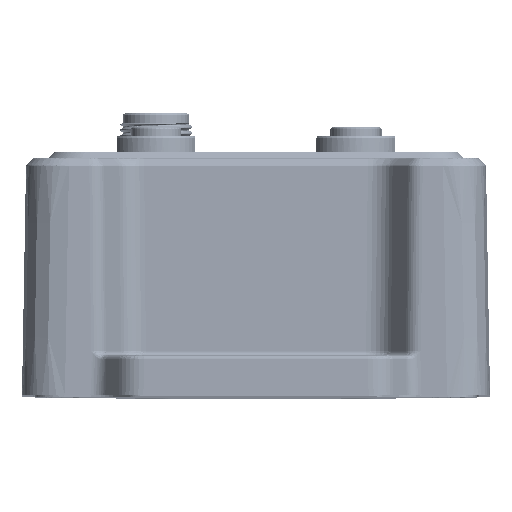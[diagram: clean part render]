
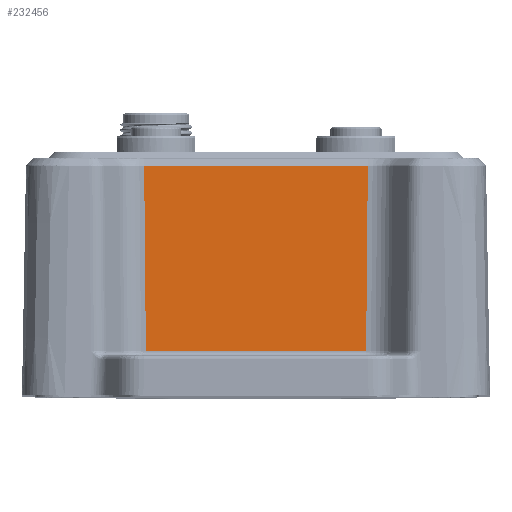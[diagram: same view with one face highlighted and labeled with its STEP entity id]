
A CAD part, top view. The second image highlights one B-rep face of the part: STEP entity #232456.
In plain terms, the highlighted planar face has unit normal (0, 0.018, 1).
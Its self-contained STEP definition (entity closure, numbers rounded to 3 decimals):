
#28121=CARTESIAN_POINT('',(-18.206,7.188,
85.557));
#28141=DIRECTION('',(-1.,0.,0.));
#28142=VECTOR('',#28141,36.969);
#28143=CARTESIAN_POINT('',(18.484,37.818,85.022));
#28144=LINE('',#28143,#28142);
#28145=DIRECTION('',(-0.009,-1.,0.017));
#28146=VECTOR('',#28145,30.637);
#28147=CARTESIAN_POINT('',(18.484,37.818,85.022));
#28148=LINE('',#28147,#28146);
#28149=DIRECTION('',(-1.,0.,0.));
#28150=VECTOR('',#28149,36.412);
#28151=CARTESIAN_POINT('',(18.206,7.188,85.557));
#28152=LINE('',#28151,#28150);
#28153=DIRECTION('',(-0.009,1.,-0.017));
#28154=VECTOR('',#28153,30.637);
#28155=CARTESIAN_POINT('',(-18.206,7.188,
85.557));
#28156=LINE('',#28155,#28154);
#28252=CARTESIAN_POINT('',(18.484,37.818,85.022));
#147719=VERTEX_POINT('',#28121);
#147721=CARTESIAN_POINT('',(18.206,7.188,
85.557));
#147722=VERTEX_POINT('',#147721);
#147962=VERTEX_POINT('',#28252);
#147964=CARTESIAN_POINT('',(-18.484,37.818,
85.022));
#147965=VERTEX_POINT('',#147964);
#232442=CARTESIAN_POINT('',(-41.588,39.1,85.));
#232443=DIRECTION('',(0.,0.017,1.));
#232444=DIRECTION('',(-1.,0.,0.));
#232445=AXIS2_PLACEMENT_3D('',#232442,#232443,#232444);
#232446=PLANE('',#232445);
#232448=ORIENTED_EDGE('',*,*,#232447,.F.);
#232450=ORIENTED_EDGE('',*,*,#232449,.T.);
#232452=ORIENTED_EDGE('',*,*,#232451,.T.);
#232453=ORIENTED_EDGE('',*,*,#232422,.T.);
#232454=EDGE_LOOP('',(#232448,#232450,#232452,#232453));
#232455=FACE_OUTER_BOUND('',#232454,.F.);
#232422=EDGE_CURVE('',#147719,#147965,#28156,.T.);
#232447=EDGE_CURVE('',#147962,#147965,#28144,.T.);
#232449=EDGE_CURVE('',#147962,#147722,#28148,.T.);
#232451=EDGE_CURVE('',#147722,#147719,#28152,.T.);
#232456=ADVANCED_FACE('',(#232455),#232446,.T.);
